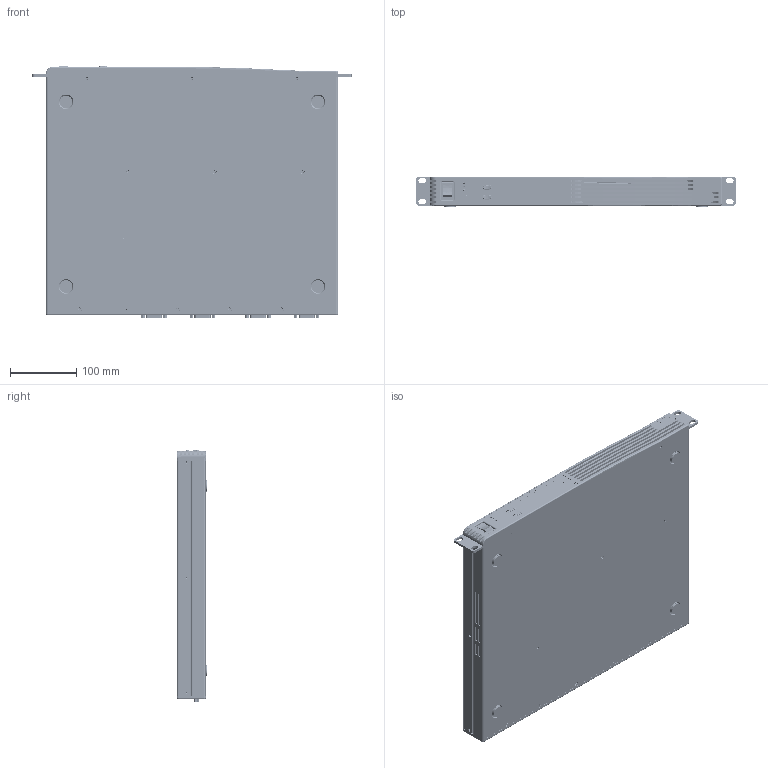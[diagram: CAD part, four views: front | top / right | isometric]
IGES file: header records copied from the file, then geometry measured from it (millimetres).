
Start section: SolidWorks IGES file using analytic representation for surfaces
Global section: file name: H:\Dropbox\Mechanical Engr\Development Projects (P)\7100 MultiSource Controller Series\Customer Model Development\7154\Step 9 - 7154-TEC MultiSource without rear straps.IGS; native system: SolidWorks 2019; preprocessor: SolidWorks 2019; author: mrhan; date: 200330.003006; units: inch
Bounding box: 482.6 x 46.14 x 382.13 mm (x, y, z)
Surface area: 456856.6 mm2 (no closed solid volume)
Topology: 0 solids, 0 shells, 6293 faces, 57642 edges, 57600 vertices
Faces by surface type: bspline 4893, revolution 1400
